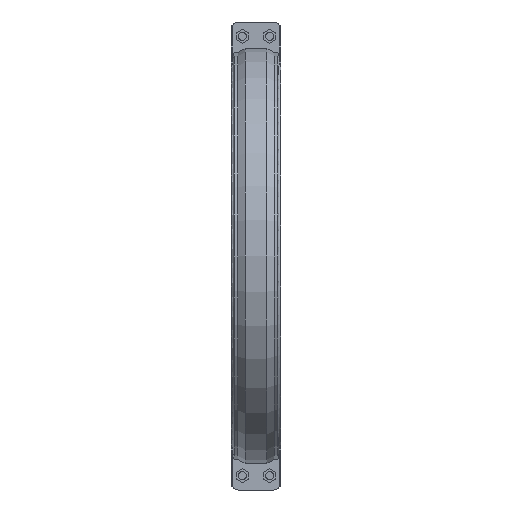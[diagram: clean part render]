
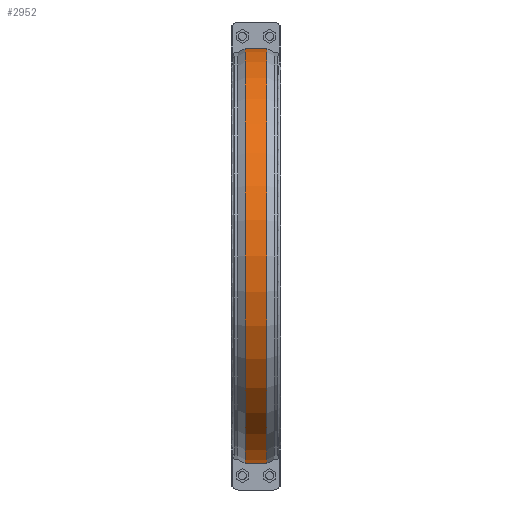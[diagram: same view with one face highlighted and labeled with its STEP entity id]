
A CAD part, front view. The second image highlights one B-rep face of the part: STEP entity #2952.
In plain terms, the highlighted cylindrical face has radius 479.676 mm (diameter 959.353 mm), a partial arc.
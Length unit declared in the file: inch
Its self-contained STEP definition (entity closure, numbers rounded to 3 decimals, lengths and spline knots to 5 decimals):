
#341=FACE_OUTER_BOUND('',#511,.T.);
#511=EDGE_LOOP('',(#2516,#2517,#2518,#2519));
#627=LINE('',#4466,#890);
#784=LINE('',#4997,#1047);
#890=VECTOR('',#3531,0.3937);
#1047=VECTOR('',#3956,0.3937);
#1110=CIRCLE('',#3118,18.8849);
#1143=CIRCLE('',#3214,18.8849);
#1264=VERTEX_POINT('',#4461);
#1265=VERTEX_POINT('',#4465);
#1312=VERTEX_POINT('',#4683);
#1410=VERTEX_POINT('',#4993);
#1573=EDGE_CURVE('',#1265,#1264,#627,.T.);
#1645=EDGE_CURVE('',#1312,#1264,#1110,.T.);
#1796=EDGE_CURVE('',#1312,#1410,#784,.T.);
#1803=EDGE_CURVE('',#1410,#1265,#1143,.T.);
#2516=ORIENTED_EDGE('',*,*,#1573,.T.);
#2517=ORIENTED_EDGE('',*,*,#1645,.F.);
#2518=ORIENTED_EDGE('',*,*,#1796,.T.);
#2519=ORIENTED_EDGE('',*,*,#1803,.T.);
#2656=CYLINDRICAL_SURFACE('',#3213,18.8849);
#2952=ADVANCED_FACE('',(#341),#2656,.T.);
#3118=AXIS2_PLACEMENT_3D('',#4687,#3661,#3662);
#3213=AXIS2_PLACEMENT_3D('',#5011,#3975,#3976);
#3214=AXIS2_PLACEMENT_3D('',#5012,#3977,#3978);
#3531=DIRECTION('',(1.,0.,0.));
#3661=DIRECTION('center_axis',(1.,0.,0.));
#3662=DIRECTION('ref_axis',(0.,0.,-1.));
#3956=DIRECTION('',(-1.,0.,0.));
#3975=DIRECTION('center_axis',(1.,0.,0.));
#3976=DIRECTION('ref_axis',(0.,-1.,0.));
#3977=DIRECTION('center_axis',(1.,0.,0.));
#3978=DIRECTION('ref_axis',(0.,0.,-1.));
#4461=CARTESIAN_POINT('',(1.,-0.375,-18.88118));
#4465=CARTESIAN_POINT('',(-1.,-0.375,-18.88118));
#4466=CARTESIAN_POINT('',(0.5,-0.375,-18.88118));
#4683=CARTESIAN_POINT('',(1.,-0.375,18.88118));
#4687=CARTESIAN_POINT('Origin',(1.,0.,0.));
#4993=CARTESIAN_POINT('',(-1.,-0.375,18.88118));
#4997=CARTESIAN_POINT('',(0.5,-0.375,18.88118));
#5011=CARTESIAN_POINT('Origin',(0.5,0.,0.));
#5012=CARTESIAN_POINT('Origin',(-1.,0.,0.));
